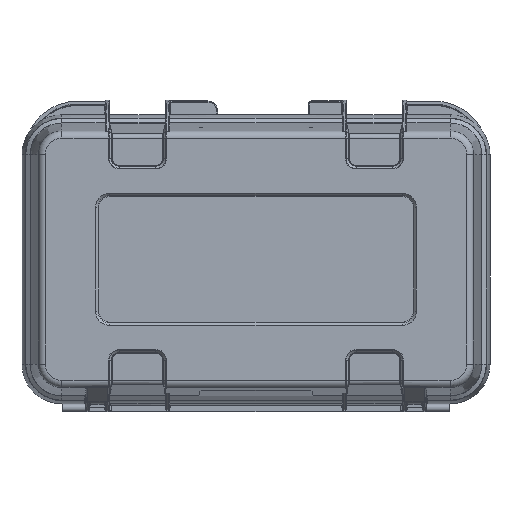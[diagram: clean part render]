
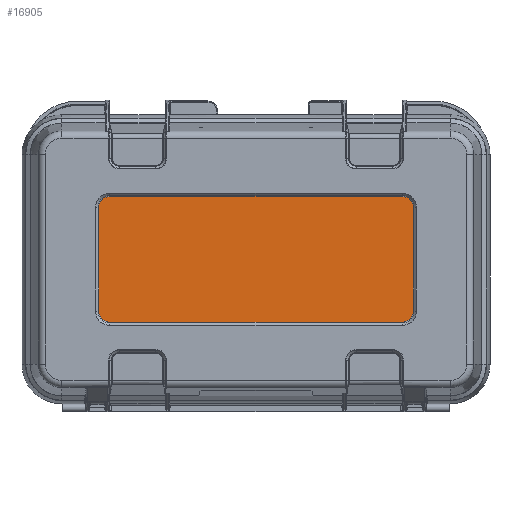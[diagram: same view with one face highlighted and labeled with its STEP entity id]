
A CAD part, top view. The second image highlights one B-rep face of the part: STEP entity #16905.
In plain terms, the highlighted planar face has unit normal (0, 0, 1).
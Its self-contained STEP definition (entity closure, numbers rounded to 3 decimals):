
#16248=PLANE('',#60457);
#16905=ADVANCED_FACE('',(#20917),#16248,.F.);
#20917=FACE_OUTER_BOUND('',#24022,.T.);
#24022=EDGE_LOOP('',(#32705,#32706,#32707,#32708,#32709,#32710,#32711,#32712));
#27338=LINE('',#79828,#29760);
#27339=LINE('',#79833,#29761);
#27340=LINE('',#79837,#29762);
#27341=LINE('',#79841,#29763);
#29760=VECTOR('',#65677,1.);
#29761=VECTOR('',#65680,1.);
#29762=VECTOR('',#65683,1.);
#29763=VECTOR('',#65686,1.);
#32705=ORIENTED_EDGE('',*,*,#51603,.T.);
#32706=ORIENTED_EDGE('',*,*,#51604,.F.);
#32707=ORIENTED_EDGE('',*,*,#51605,.F.);
#32708=ORIENTED_EDGE('',*,*,#51606,.F.);
#32709=ORIENTED_EDGE('',*,*,#51607,.T.);
#32710=ORIENTED_EDGE('',*,*,#51608,.T.);
#32711=ORIENTED_EDGE('',*,*,#51609,.T.);
#32712=ORIENTED_EDGE('',*,*,#51610,.T.);
#47261=VERTEX_POINT('',#79829);
#47262=VERTEX_POINT('',#79830);
#47263=VERTEX_POINT('',#79832);
#47264=VERTEX_POINT('',#79834);
#47265=VERTEX_POINT('',#79836);
#47266=VERTEX_POINT('',#79838);
#47267=VERTEX_POINT('',#79840);
#47268=VERTEX_POINT('',#79842);
#51603=EDGE_CURVE('',#47261,#47262,#27338,.T.);
#51604=EDGE_CURVE('',#47263,#47262,#58339,.T.);
#51605=EDGE_CURVE('',#47264,#47263,#27339,.T.);
#51606=EDGE_CURVE('',#47265,#47264,#58340,.T.);
#51607=EDGE_CURVE('',#47265,#47266,#27340,.T.);
#51608=EDGE_CURVE('',#47266,#47267,#58341,.T.);
#51609=EDGE_CURVE('',#47267,#47268,#27341,.T.);
#51610=EDGE_CURVE('',#47268,#47261,#58342,.T.);
#58339=CIRCLE('',#60453,11.586);
#58340=CIRCLE('',#60454,11.586);
#58341=CIRCLE('',#60455,11.586);
#58342=CIRCLE('',#60456,11.586);
#60453=AXIS2_PLACEMENT_3D('',#79831,#65678,#65679);
#60454=AXIS2_PLACEMENT_3D('',#79835,#65681,#65682);
#60455=AXIS2_PLACEMENT_3D('',#79839,#65684,#65685);
#60456=AXIS2_PLACEMENT_3D('',#79843,#65687,#65688);
#60457=AXIS2_PLACEMENT_3D('',#79844,#65689,#65690);
#65677=DIRECTION('',(1.,0.,0.));
#65678=DIRECTION('',(0.,0.,-1.));
#65679=DIRECTION('',(1.,0.,0.));
#65680=DIRECTION('',(0.,-1.,0.));
#65681=DIRECTION('',(0.,0.,-1.));
#65682=DIRECTION('',(1.,0.,0.));
#65683=DIRECTION('',(-1.,0.,0.));
#65684=DIRECTION('',(0.,0.,1.));
#65685=DIRECTION('',(-1.,0.,0.));
#65686=DIRECTION('',(0.,-1.,0.));
#65687=DIRECTION('',(0.,0.,1.));
#65688=DIRECTION('',(-1.,0.,0.));
#65689=DIRECTION('',(0.,0.,-1.));
#65690=DIRECTION('',(-1.,0.,0.));
#79828=CARTESIAN_POINT('',(-170.,100.664,107.5));
#79829=CARTESIAN_POINT('',(-155.,100.664,107.5));
#79830=CARTESIAN_POINT('',(155.,100.664,107.5));
#79831=CARTESIAN_POINT('',(155.,112.25,107.5));
#79832=CARTESIAN_POINT('',(166.586,112.25,107.5));
#79833=CARTESIAN_POINT('',(166.586,97.25,107.5));
#79834=CARTESIAN_POINT('',(166.586,222.25,107.5));
#79835=CARTESIAN_POINT('',(155.,222.25,107.5));
#79836=CARTESIAN_POINT('',(155.,233.836,107.5));
#79837=CARTESIAN_POINT('',(-170.,233.836,107.5));
#79838=CARTESIAN_POINT('',(-155.,233.836,107.5));
#79839=CARTESIAN_POINT('',(-155.,222.25,107.5));
#79840=CARTESIAN_POINT('',(-166.586,222.25,107.5));
#79841=CARTESIAN_POINT('',(-166.586,97.25,107.5));
#79842=CARTESIAN_POINT('',(-166.586,112.25,107.5));
#79843=CARTESIAN_POINT('',(-155.,112.25,107.5));
#79844=CARTESIAN_POINT('',(-170.,97.25,107.5));
